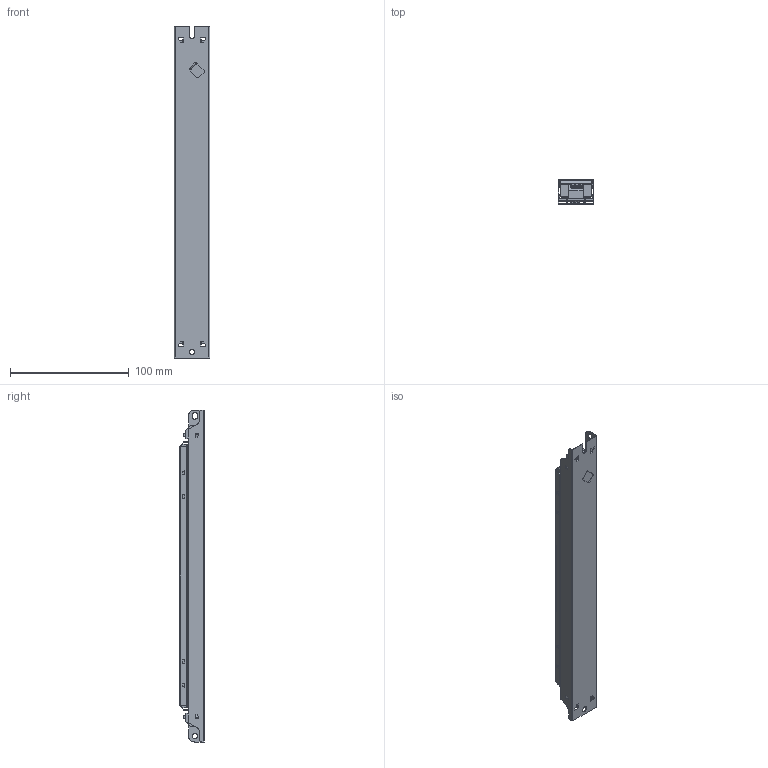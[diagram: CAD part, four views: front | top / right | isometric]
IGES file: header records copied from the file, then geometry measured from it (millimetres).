
Start section: SolidWorks IGES file using analytic representation for surfaces
Global section: file name: C:\Users\vuorinen_kari\Desktop\prj\LL35HE\LL35HE_.IGS; native system: SolidWorks 2014; preprocessor: SolidWorks 2014; author: vuorinen_kari; date: 180419.130019; units: millimetre
Bounding box: 30.08 x 20.8 x 280 mm (x, y, z)
Surface area: 73779.9 mm2 (no closed solid volume)
Topology: 0 solids, 0 shells, 798 faces, 5929 edges, 5929 vertices
Faces by surface type: bspline 566, revolution 232
